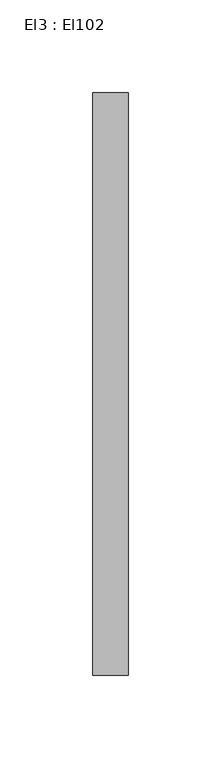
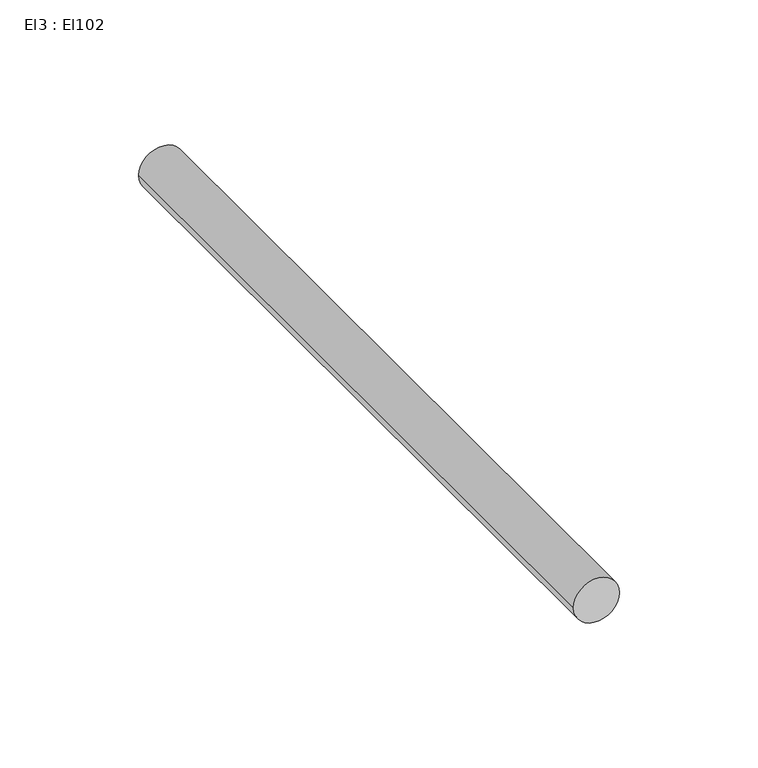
"""IFC4 building model written with IfcOpenShell, lengths in millimetres: cable carrier segment geometry, El3 : El102."""

from ifc_helpers import new_model, si_unit, point, frame, frame_2d, origin, place, context, project, spatial, circle_curve, trimmed, segment, composite_curve, outline, extrude, source, transform, mapped, element, save


def el3_el102_fbad8927(model_context):
    return source(origin(), model_context, "Body", "SweptSolid", [
        extrude(outline(composite_curve([segment(trimmed(circle_curve(frame_2d((1800.0, 25144.4746511)), 9.5), [point((1800.0, 25134.9746511))], [point((1800.0, 25153.9746511))], False, "CARTESIAN"), True, "CONTINUOUS"), segment(trimmed(circle_curve(frame_2d((1800.0, 25144.4746511)), 9.5), [point((1800.0, 25153.9746511))], [point((1800.0, 25134.9746511))], False, "CARTESIAN"), True, "CONTINUOUS")], self_intersect=False)), frame((0.0, 9125.0301745, 0.0), z_axis=(0.0, 1.0, 0.0), x_axis=(0.0, 0.0, 1.0)), (0.0, 0.0, 1.0), 313.564),
    ])


if __name__ == "__main__":
    model = new_model("IFC4")
    model_context = context("Model", 3, world=origin())
    ifc_project = project(units=[si_unit("LENGTHUNIT", "METRE", prefix="MILLI")], contexts=[model_context])
    site = spatial("IfcSite", under=ifc_project)
    building = spatial("IfcBuilding", under=site)
    placement = place(None, origin())
    el3_el102_shape = el3_el102_fbad8927(model_context)
    element("IfcCableCarrierSegment", 1, ObjectType="El3 : El102", at=placement, inside=building, context=model_context, shape_type="MappedRepresentation", body=[
        mapped(el3_el102_shape, transform((0.0, 0.0, 0.0), x_axis=(1.0, 0.0, 0.0), y_axis=(0.0, 1.0, 0.0), z_axis=(0.0, 0.0, 1.0))),
    ])
    save(model, "model.ifc")
